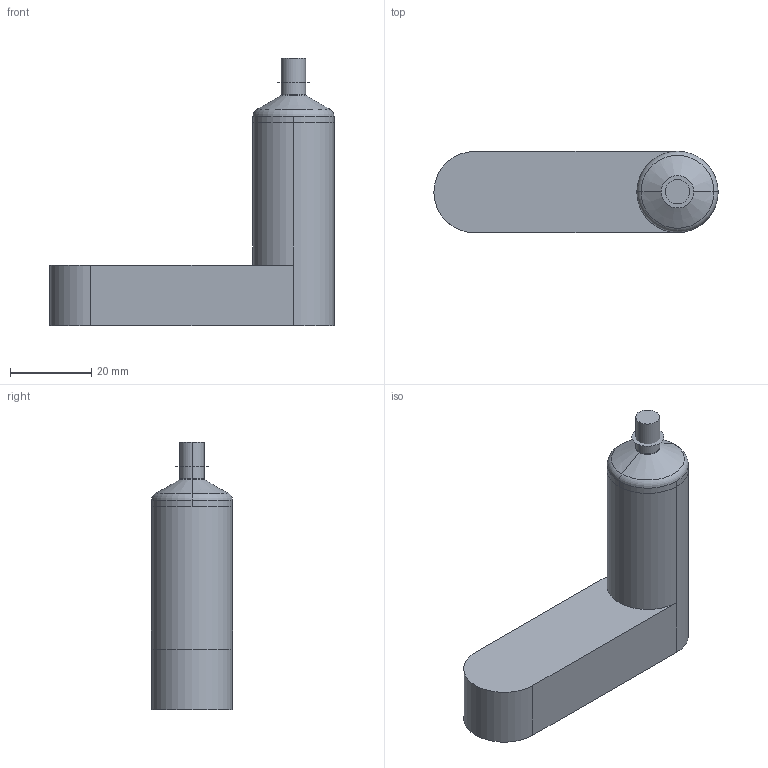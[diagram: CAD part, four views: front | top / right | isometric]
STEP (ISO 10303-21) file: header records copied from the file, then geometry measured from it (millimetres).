
FILE_DESCRIPTION (( 'STEP AP214' ), '1' );
FILE_NAME ('06E-03-060-##K.STEP', '2023-01-03T08:13:18', ( '' ), ( '' ), 'SwSTEP 2.0', 'SolidWorks 2018', '' );
FILE_SCHEMA (( 'AUTOMOTIVE_DESIGN' ));
Length unit declared in the file: millimetre
Products named in the file (5): 06E-03-060-##K; 06nt_cutout_06E_K01; nozzle_06E-03-060-##K; 06nt-tnk_pdasm_06NT-TNK-12; cutout_06E-03-060-##K
Assembly tree (4 placements, depth 3):
  06E-03-060-##K
    06nt-tnk_pdasm_06NT-TNK-12
      06nt_cutout_06E_K01
    nozzle_06E-03-060-##K
    cutout_06E-03-060-##K
Bounding box: 70 x 20 x 66 mm (x, y, z)
Volume: 34111.6 mm3; surface area: 15565.6 mm2
Topology: 2 solids, 5 shells, 184 faces, 469 edges, 290 vertices
Faces by surface type: cylinder 85, plane 60, cone 20, torus 15, bspline 4
Entity records: 9910 total; most frequent: CARTESIAN_POINT 5207, DIRECTION 1013, ORIENTED_EDGE 936, EDGE_CURVE 469, AXIS2_PLACEMENT_3D 398, VERTEX_POINT 290, VECTOR 217, LINE 217
